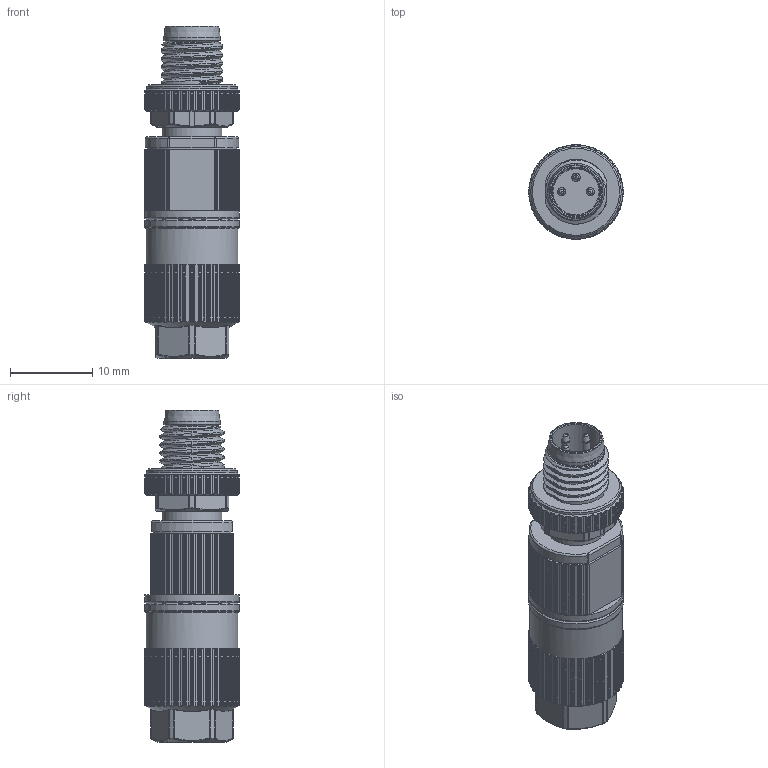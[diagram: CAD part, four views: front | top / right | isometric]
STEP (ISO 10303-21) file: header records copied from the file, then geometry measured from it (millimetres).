
FILE_DESCRIPTION(/* description */ (''),/* implementation_level */ '2;1');
FILE_NAME(/* name */ 'M8-3-针.stp',/* time_stamp */ '2024-12-05T19:01:46+08:00',/* author */ (''),/* organization */ (''),/* preprocessor_version */ 'ST-DEVELOPER v18.101',/* originating_system */ 'SIEMENS PLM Software NX 2007',/* authorisation */ '');
FILE_SCHEMA (('AUTOMOTIVE_DESIGN { 1 0 10303 214 3 1 1 1 }'));
Length unit declared in the file: millimetre
Products named in the file (1): IDC-M8-3针
Bounding box: 11.5 x 11.5 x 40.4 mm (x, y, z)
Volume: 3143.7 mm3; surface area: 2510.4 mm2
Topology: 6 solids, 6 shells, 902 faces, 2537 edges, 1656 vertices
Faces by surface type: cylinder 620, plane 122, torus 56, cone 55, bspline 45, sphere 4
Full cylindrical faces by diameter (mm): 1 x3, 5.4 x1, 5.8 x1, 6.4 x1, 6.5 x1, 6.87 x1, 7.3 x2, 11 x1, 11.3 x1, 11.5 x2
Entity records: 32301 total; most frequent: CARTESIAN_POINT 10503, ORIENTED_EDGE 4944, DIRECTION 4095, EDGE_CURVE 2472, AXIS2_PLACEMENT_3D 1662, VERTEX_POINT 1634, EDGE_LOOP 956, ADVANCED_FACE 902
